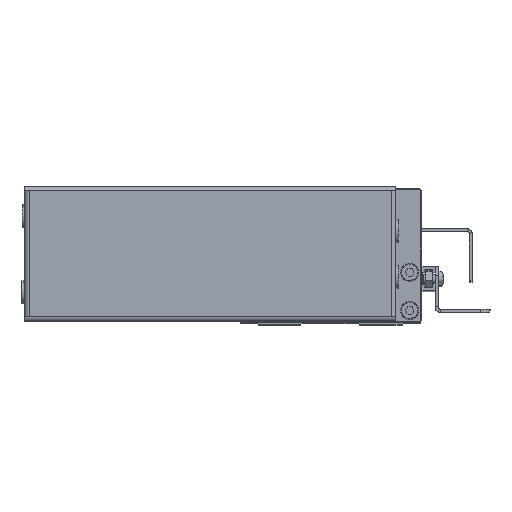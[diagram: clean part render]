
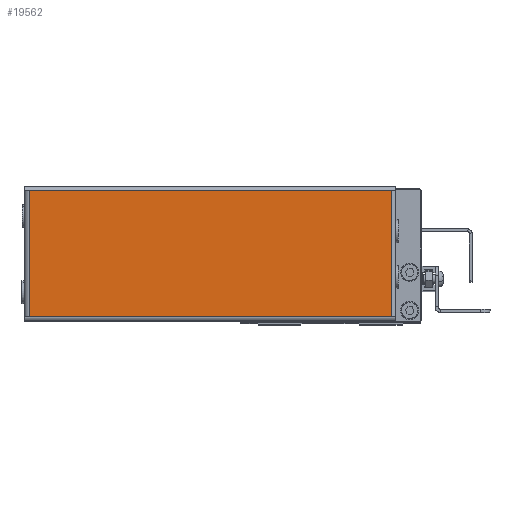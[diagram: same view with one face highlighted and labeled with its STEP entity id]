
A CAD part, top view. The second image highlights one B-rep face of the part: STEP entity #19562.
In plain terms, the highlighted planar face has unit normal (0, 0, 1) as drawn and (0, 0, -1) by its records, which use the part's own axes.
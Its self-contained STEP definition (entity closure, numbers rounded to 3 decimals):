
#458 = CARTESIAN_POINT ( 'NONE',  ( 120.5, 42.7, -1. ) ) ;
#3377 = VERTEX_POINT ( 'NONE', #41940 ) ;
#4475 = EDGE_CURVE ( 'NONE', #3377, #34119, #47392, .T. ) ;
#4773 = ORIENTED_EDGE ( 'NONE', *, *, #4475, .T. ) ;
#6282 = ORIENTED_EDGE ( 'NONE', *, *, #45379, .T. ) ;
#8172 = DIRECTION ( 'NONE',  ( 0., 1., 0. ) ) ;
#8211 = CARTESIAN_POINT ( 'NONE',  ( 122., 1.3, -1. ) ) ;
#8918 = CARTESIAN_POINT ( 'NONE',  ( 1.5, 1.3, -1. ) ) ;
#9146 = LINE ( 'NONE', #17454, #56291 ) ;
#17396 = FACE_OUTER_BOUND ( 'NONE', #42046, .T. ) ;
#17454 = CARTESIAN_POINT ( 'NONE',  ( 120.5, 42.7, -1. ) ) ;
#19115 = CARTESIAN_POINT ( 'NONE',  ( 1.5, 1.3, -1. ) ) ;
#19277 = CARTESIAN_POINT ( 'NONE',  ( 120.5, 1.3, -1. ) ) ;
#19386 = VECTOR ( 'NONE', #26110, 1000. ) ;
#19562 = ADVANCED_FACE ( 'NONE', ( #17396 ), #46053, .T. ) ;
#22712 = EDGE_CURVE ( 'NONE', #26815, #3377, #43617, .T. ) ;
#25529 = CARTESIAN_POINT ( 'NONE',  ( 0., 42.7, -1. ) ) ;
#26110 = DIRECTION ( 'NONE',  ( 1., 0., 0. ) ) ;
#26815 = VERTEX_POINT ( 'NONE', #19115 ) ;
#29555 = EDGE_CURVE ( 'NONE', #34119, #52038, #9146, .T. ) ;
#30062 = ORIENTED_EDGE ( 'NONE', *, *, #29555, .T. ) ;
#34119 = VERTEX_POINT ( 'NONE', #458 ) ;
#37478 = CARTESIAN_POINT ( 'NONE',  ( 0., 0., -1. ) ) ;
#37977 = VECTOR ( 'NONE', #47496, 1000. ) ;
#41333 = ORIENTED_EDGE ( 'NONE', *, *, #22712, .T. ) ;
#41940 = CARTESIAN_POINT ( 'NONE',  ( 1.5, 42.7, -1. ) ) ;
#42046 = EDGE_LOOP ( 'NONE', ( #4773, #30062, #6282, #41333 ) ) ;
#42628 = DIRECTION ( 'NONE',  ( 0., 0., -1. ) ) ;
#43617 = LINE ( 'NONE', #8918, #53898 ) ;
#45379 = EDGE_CURVE ( 'NONE', #52038, #26815, #46872, .T. ) ;
#46053 = PLANE ( 'NONE',  #47236 ) ;
#46872 = LINE ( 'NONE', #8211, #37977 ) ;
#47236 = AXIS2_PLACEMENT_3D ( 'NONE', #37478, #42628, #52026 ) ;
#47392 = LINE ( 'NONE', #25529, #19386 ) ;
#47496 = DIRECTION ( 'NONE',  ( -1., 0., 0. ) ) ;
#51852 = DIRECTION ( 'NONE',  ( 0., -1., 0. ) ) ;
#52026 = DIRECTION ( 'NONE',  ( -1., 0., 0. ) ) ;
#52038 = VERTEX_POINT ( 'NONE', #19277 ) ;
#53898 = VECTOR ( 'NONE', #8172, 1000. ) ;
#56291 = VECTOR ( 'NONE', #51852, 1000. ) ;
